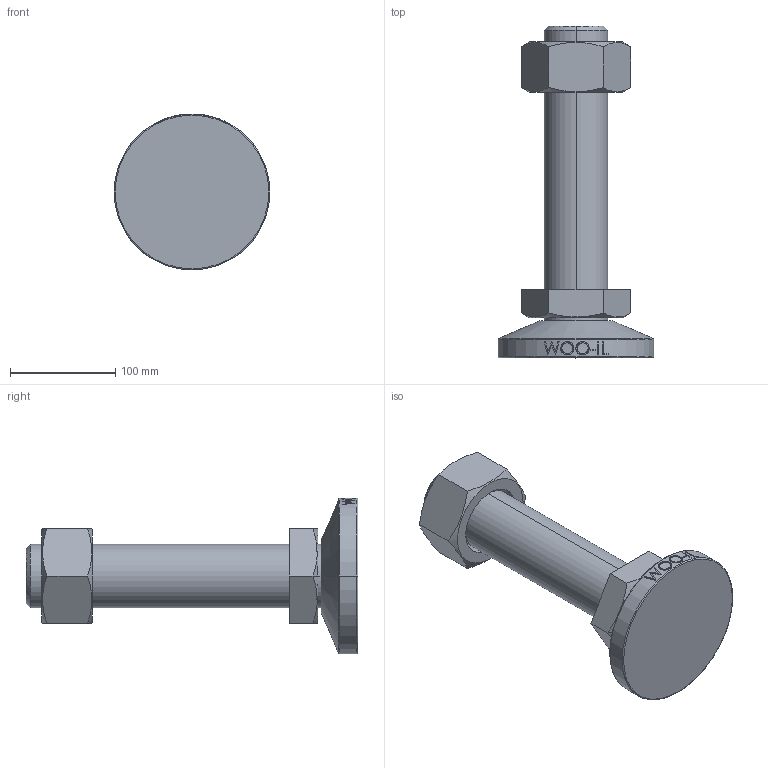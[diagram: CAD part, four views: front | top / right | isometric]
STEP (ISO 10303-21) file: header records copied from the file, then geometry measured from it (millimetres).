
FILE_DESCRIPTION (( 'STEP AP214' ), '1' );
FILE_NAME ('WTr60-148-Tr60-250.step', '2021-02-02T06:08:31', ( '' ), ( '' ), 'SwSTEP 2.0', 'SolidWorks 2019', '' );
FILE_SCHEMA (( 'AUTOMOTIVE_DESIGN' ));
Length unit declared in the file: millimetre
Products named in the file (2): WTr60-148-Tr60-250
Bounding box: 148 x 315 x 148 mm (x, y, z)
Volume: 1573624.2 mm3; surface area: 143790 mm2
Topology: 3 solids, 3 shells, 97 faces, 229 edges, 148 vertices
Faces by surface type: plane 47, cylinder 16, bspline 16, cone 14, torus 4
Entity records: 4562 total; most frequent: CARTESIAN_POINT 2398, ORIENTED_EDGE 458, DIRECTION 387, EDGE_CURVE 229, VERTEX_POINT 148, AXIS2_PLACEMENT_3D 145, EDGE_LOOP 109, FACE_OUTER_BOUND 97
